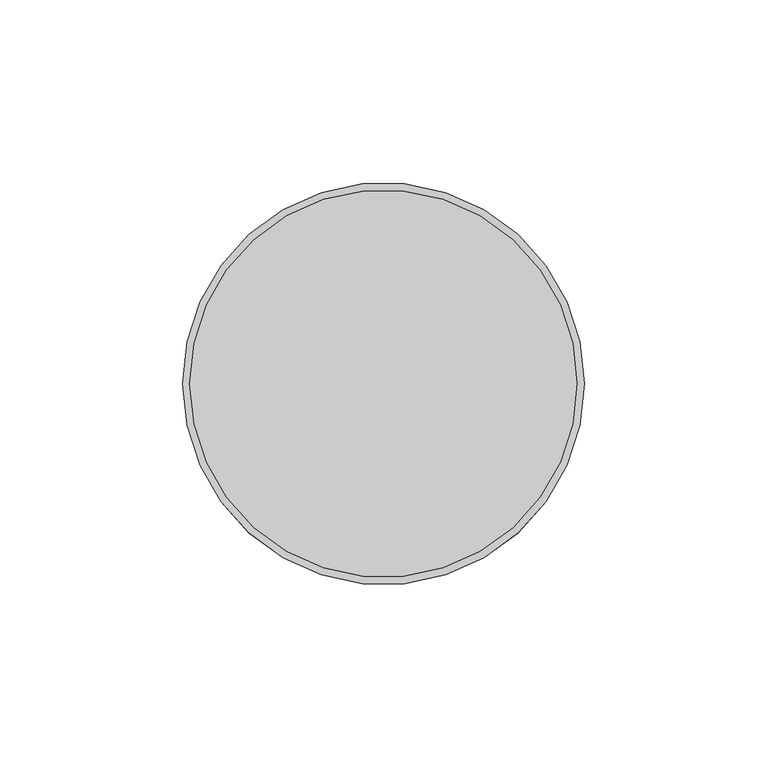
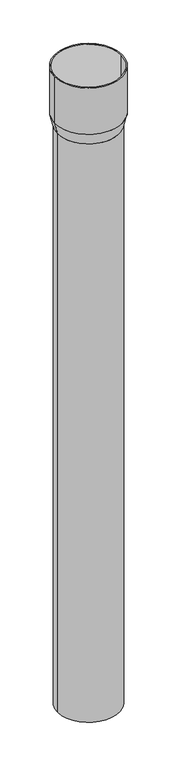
"""IFC4 building model written with IfcOpenShell, lengths in millimetres: proxy geometry, Dauphin : Dauphin."""

from ifc_helpers import new_model, si_unit, point, frame, origin, origin_with_axes, origin_2d, place, context, project, spatial, polyline, circle_curve, trimmed, segment, composite_curve, outline, extrude, source, transform, mapped, element, save
from ifc_brep_helpers import plane_surface, revolved_surface, advanced_brep


def generic_models_5eac7eff(model_context):
    return source(origin(), model_context, "Body", "SolidModel", [
        extrude(outline(composite_curve([segment(trimmed(circle_curve(origin_2d(), 55.0), [point((-55.0, 0.0))], [point((55.0, 0.0))], False, "CARTESIAN"), True, "CONTINUOUS"), segment(trimmed(circle_curve(origin_2d(), 55.0), [point((55.0, 0.0))], [point((-55.0, 0.0))], False, "CARTESIAN"), True, "CONTINUOUS")], self_intersect=False), holes=[composite_curve([segment(trimmed(circle_curve(origin_2d(), 53.0), [point((-53.0, 0.0))], [point((53.0, 0.0))], True, "CARTESIAN"), True, "CONTINUOUS"), segment(trimmed(circle_curve(origin_2d(), 53.0), [point((53.0, 0.0))], [point((-53.0, 0.0))], True, "CARTESIAN"), True, "CONTINUOUS")], self_intersect=False)]), frame((0.0, 0.0, 1020.0), z_axis=(0.0, 0.0, 1.0), x_axis=(1.0, 0.0, 0.0)), (0.0, 0.0, 1.0), 80.0),
        advanced_brep(
        [(-55.0, 0.0, 1020.0), (55.0, 0.0, 1020.0), (-50.0, 0.0, 1000.0), (50.0, 0.0, 1000.0)],
        [
            (0, 1, circle_curve(frame((0.0, 0.0, 1020.0), z_axis=(0.0, 0.0, 1.0), x_axis=(-1.0, 0.0, 0.0)), 55.0)),
            (1, 0, circle_curve(frame((0.0, 0.0, 1020.0), z_axis=(0.0, 0.0, 1.0), x_axis=(1.0, 0.0, 0.0)), 55.0)),
            (2, 3, circle_curve(frame((0.0, 0.0, 1000.0), z_axis=(0.0, 0.0, -1.0), x_axis=(1.0, 0.0, 0.0)), 50.0)),
            (3, 2, circle_curve(frame((0.0, 0.0, 1000.0), z_axis=(0.0, 0.0, -1.0), x_axis=(-1.0, 0.0, 0.0)), 50.0)),
            (3, 1),
            (0, 2),
        ],
        [
            plane_surface(frame((0.0, 0.0, 1020.0), z_axis=(0.0, 0.0, 1.0), x_axis=(0.0, -1.0, 0.0))),
            plane_surface(frame((0.0, 0.0, 1000.0), z_axis=(0.0, 0.0, -1.0), x_axis=(0.0, -1.0, 0.0))),
            revolved_surface(polyline([(50.0, 0.0, 1000.0), (55.0, 0.0, 1020.0)]), (0.0, 0.0, 800.0), (0.0, 0.0, 1.0)),
            revolved_surface(polyline([(-50.0, 0.0, 1000.0), (-55.0, 0.0, 1020.0)]), (0.0, 0.0, 800.0), (0.0, 0.0, 1.0)),
        ],
        [
            (0, [[1, 2]]),
            (1, [[3, 4]]),
            (2, [[-4, 5, -1, 6]]),
            (3, [[-3, -6, -2, -5]]),
        ],
    ),
        extrude(outline(composite_curve([segment(trimmed(circle_curve(origin_2d(), 50.0), [point((-50.0, 0.0))], [point((50.0, 0.0))], False, "CARTESIAN"), True, "CONTINUOUS"), segment(trimmed(circle_curve(origin_2d(), 50.0), [point((50.0, 0.0))], [point((-50.0, 0.0))], False, "CARTESIAN"), True, "CONTINUOUS")], self_intersect=False), holes=[composite_curve([segment(trimmed(circle_curve(origin_2d(), 48.0), [point((-48.0, 0.0))], [point((48.0, 0.0))], True, "CARTESIAN"), True, "CONTINUOUS"), segment(trimmed(circle_curve(origin_2d(), 48.0), [point((48.0, 0.0))], [point((-48.0, 0.0))], True, "CARTESIAN"), True, "CONTINUOUS")], self_intersect=False)]), origin_with_axes(), (0.0, 0.0, 1.0), 1000.0),
    ])


if __name__ == "__main__":
    model = new_model("IFC4")
    model_context = context("Model", 3, world=origin())
    ifc_project = project(units=[si_unit("LENGTHUNIT", "METRE", prefix="MILLI")], contexts=[model_context])
    site = spatial("IfcSite", under=ifc_project)
    building = spatial("IfcBuilding", under=site)
    placement = place(None, origin())
    generic_models_shape = generic_models_5eac7eff(model_context)
    element("IfcBuildingElementProxy", 1, Name="Dauphin : Dauphin", ObjectType="Dauphin : Dauphin", at=placement, inside=building, context=model_context, shape_type="MappedRepresentation", body=[
        mapped(generic_models_shape, transform((0.0, 0.0, 0.0), x_axis=(1.0, 0.0, 0.0), y_axis=(0.0, 1.0, 0.0), z_axis=(0.0, 0.0, 1.0))),
    ])
    save(model, "model.ifc")
